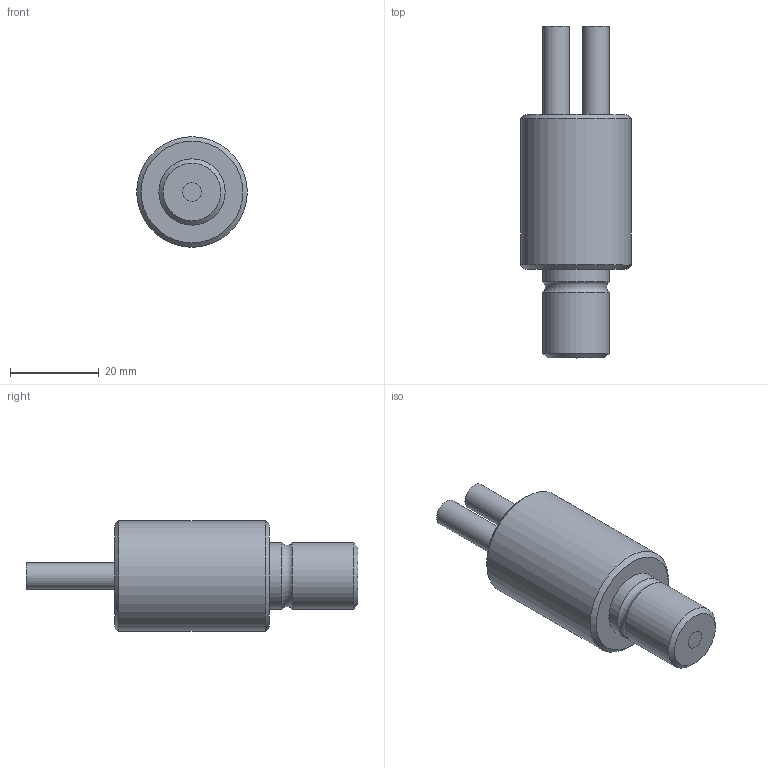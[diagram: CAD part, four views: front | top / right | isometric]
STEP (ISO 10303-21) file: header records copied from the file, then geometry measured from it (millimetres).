
FILE_DESCRIPTION(/* description */ (''),/* implementation_level */ '2;1');
FILE_NAME(/* name */ '',/* time_stamp */ '2023-05-29T11:56:53+09:00',/* author */ (''),/* organization */ (''),/* preprocessor_version */ 'ST-DEVELOPER v19.2',/* originating_system */ 'Autodesk Translation Framework v11.17.0.187',/* authorisation */ '');
FILE_SCHEMA (('AUTOMOTIVE_DESIGN { 1 0 10303 214 3 1 1 }'));
Length unit declared in the file: millimetre
Products named in the file (1): LGC2-3L 共通受光部
Bounding box: 25 x 75 x 25 mm (x, y, z)
Volume: 21701 mm3; surface area: 6737.3 mm2
Topology: 6 solids, 6 shells, 29 faces, 40 edges, 25 vertices
Faces by surface type: plane 14, cylinder 11, cone 3, torus 1
Full cylindrical faces by diameter (mm): 3 x4, 4.2 x2, 6 x2, 15 x2, 25 x1
Entity records: 656 total; most frequent: DIRECTION 126, CARTESIAN_POINT 95, ORIENTED_EDGE 80, AXIS2_PLACEMENT_3D 56, EDGE_CURVE 40, EDGE_LOOP 35, FACE_OUTER_BOUND 29, ADVANCED_FACE 29
